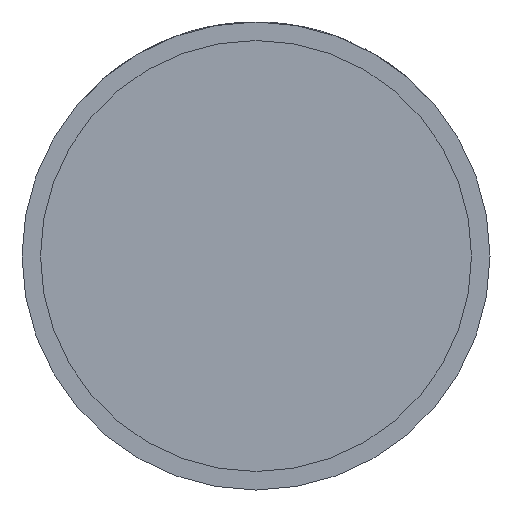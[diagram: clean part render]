
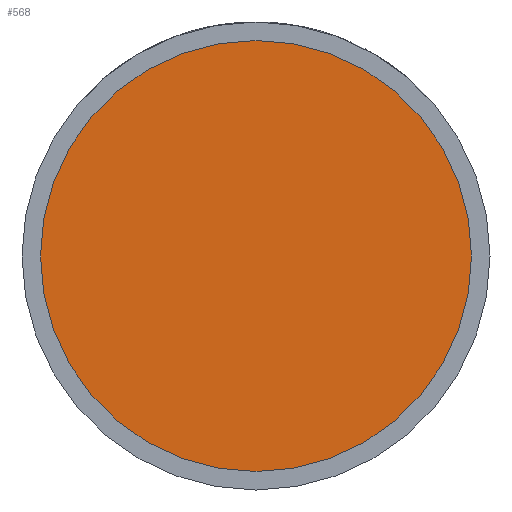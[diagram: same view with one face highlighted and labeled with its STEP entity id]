
A CAD part, front view. The second image highlights one B-rep face of the part: STEP entity #568.
In plain terms, the highlighted planar face has unit normal (0, -1, 0).
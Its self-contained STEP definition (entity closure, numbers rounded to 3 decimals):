
#437 = DIRECTION ( 'NONE',  ( 0., -1., 0. ) ) ;
#568 = ADVANCED_FACE ( 'NONE', ( #3321 ), #1096, .T. ) ;
#592 = CIRCLE ( 'NONE', #2313, 17.5 ) ;
#635 = DIRECTION ( 'NONE',  ( 1., 0., 0. ) ) ;
#942 = CARTESIAN_POINT ( 'NONE',  ( -17.5, -17., 0. ) ) ;
#1096 = PLANE ( 'NONE',  #1783 ) ;
#1277 = CARTESIAN_POINT ( 'NONE',  ( 0., -17., 0. ) ) ;
#1583 = VERTEX_POINT ( 'NONE', #942 ) ;
#1783 = AXIS2_PLACEMENT_3D ( 'NONE', #2349, #437, #3050 ) ;
#1808 = CIRCLE ( 'NONE', #2350, 17.5 ) ;
#2010 = DIRECTION ( 'NONE',  ( 0., -1., 0. ) ) ;
#2200 = DIRECTION ( 'NONE',  ( 0., -1., 0. ) ) ;
#2313 = AXIS2_PLACEMENT_3D ( 'NONE', #1277, #2010, #3245 ) ;
#2349 = CARTESIAN_POINT ( 'NONE',  ( 17.5, -17., 0. ) ) ;
#2350 = AXIS2_PLACEMENT_3D ( 'NONE', #3560, #2200, #635 ) ;
#2747 = CARTESIAN_POINT ( 'NONE',  ( 17.5, -17., 0. ) ) ;
#2875 = VERTEX_POINT ( 'NONE', #2747 ) ;
#3050 = DIRECTION ( 'NONE',  ( 1., 0., 0. ) ) ;
#3115 = EDGE_LOOP ( 'NONE', ( #3684, #3848 ) ) ;
#3245 = DIRECTION ( 'NONE',  ( 1., 0., 0. ) ) ;
#3321 = FACE_OUTER_BOUND ( 'NONE', #3115, .T. ) ;
#3322 = EDGE_CURVE ( 'NONE', #2875, #1583, #1808, .T. ) ;
#3560 = CARTESIAN_POINT ( 'NONE',  ( 0., -17., 0. ) ) ;
#3684 = ORIENTED_EDGE ( 'NONE', *, *, #3322, .T. ) ;
#3848 = ORIENTED_EDGE ( 'NONE', *, *, #3957, .T. ) ;
#3957 = EDGE_CURVE ( 'NONE', #1583, #2875, #592, .T. ) ;
